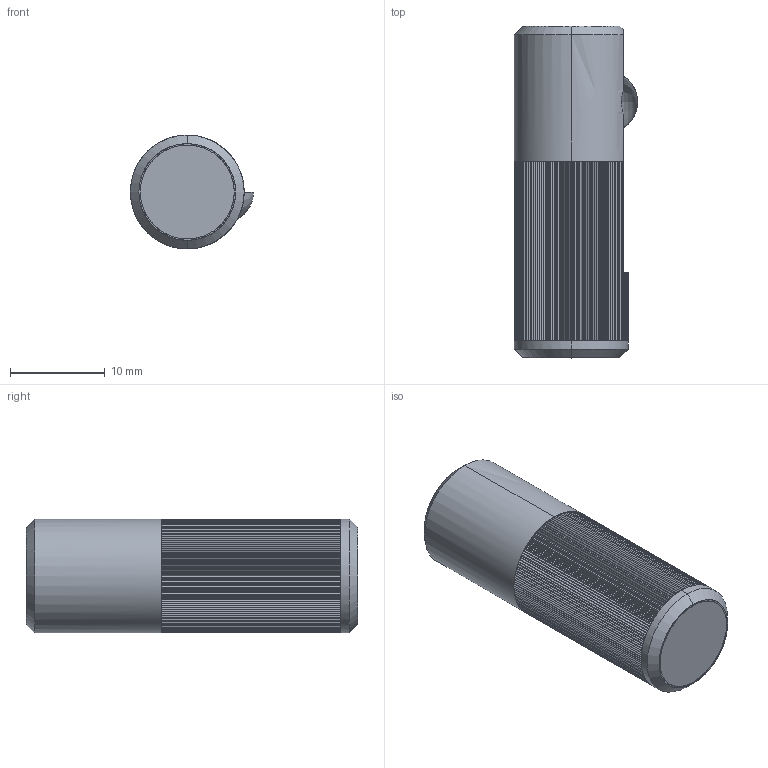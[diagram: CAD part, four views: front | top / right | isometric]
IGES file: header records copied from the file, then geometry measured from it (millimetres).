
Start section: SolidWorks IGES file using analytic representation for surfaces
Global section: file name: C:\Documents and Settings\IANO\Desktop\Temp File\Process pending\NEW\32800_v2\32800_v2_20170703_IGES\32800.W0412.igs; native system: SolidWorks 2009; preprocessor: SolidWorks 2009; author: IANO; date: 170630.125113; units: millimetre
Bounding box: 13 x 35 x 12 mm (x, y, z)
Surface area: 4151.2 mm2 (no closed solid volume)
Topology: 0 solids, 0 shells, 596 faces, 2924 edges, 2921 vertices
Faces by surface type: bspline 573, revolution 23
